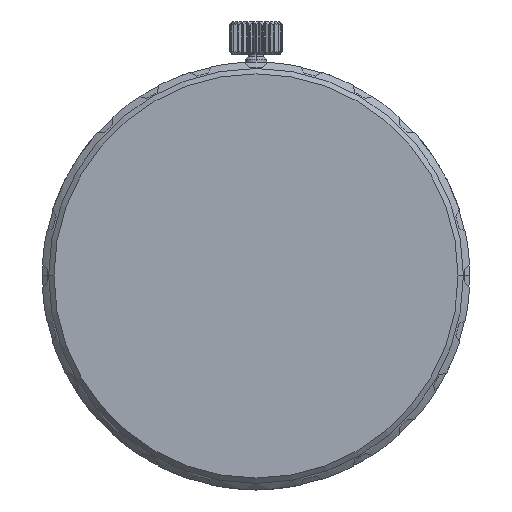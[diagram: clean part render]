
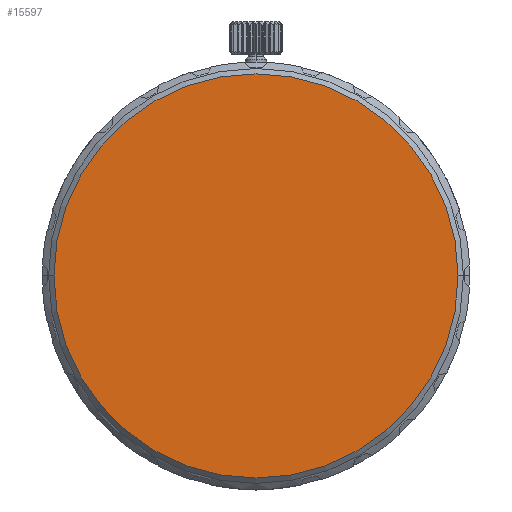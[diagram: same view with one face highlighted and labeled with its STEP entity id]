
A CAD part, left-side view. The second image highlights one B-rep face of the part: STEP entity #15597.
In plain terms, the highlighted planar face has unit normal (-1, 0, 0).
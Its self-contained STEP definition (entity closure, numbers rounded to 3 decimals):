
#57=CARTESIAN_POINT('',(-23.5,0.,0.));
#58=DIRECTION('',(-1.,0.,0.));
#59=DIRECTION('',(0.,1.,0.));
#60=AXIS2_PLACEMENT_3D('',#57,#58,#59);
#62=CARTESIAN_POINT('',(-23.5,0.,0.));
#63=DIRECTION('',(-1.,0.,0.));
#64=DIRECTION('',(0.,-1.,0.));
#65=AXIS2_PLACEMENT_3D('',#62,#63,#64);
#13839=CARTESIAN_POINT('',(-23.5,18.9,0.));
#13840=CARTESIAN_POINT('',(-23.5,-18.9,0.));
#13841=VERTEX_POINT('',#13839);
#13842=VERTEX_POINT('',#13840);
#15586=CARTESIAN_POINT('',(-23.5,0.,0.));
#15587=DIRECTION('',(1.,0.,0.));
#15588=DIRECTION('',(0.,-1.,0.));
#15589=AXIS2_PLACEMENT_3D('',#15586,#15587,#15588);
#15590=PLANE('',#15589);
#15592=ORIENTED_EDGE('',*,*,#15591,.F.);
#15594=ORIENTED_EDGE('',*,*,#15593,.F.);
#15595=EDGE_LOOP('',(#15592,#15594));
#15596=FACE_OUTER_BOUND('',#15595,.F.);
#61=CIRCLE('',#60,18.9);
#66=CIRCLE('',#65,18.9);
#15591=EDGE_CURVE('',#13841,#13842,#61,.T.);
#15593=EDGE_CURVE('',#13842,#13841,#66,.T.);
#15597=ADVANCED_FACE('',(#15596),#15590,.F.);
